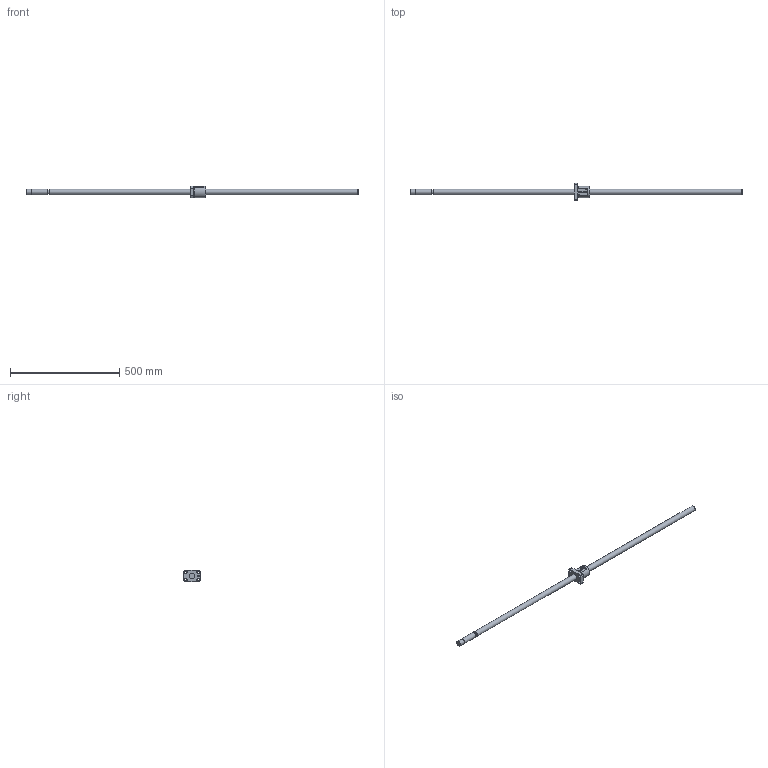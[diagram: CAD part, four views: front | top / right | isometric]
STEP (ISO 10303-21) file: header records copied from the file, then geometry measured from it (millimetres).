
FILE_DESCRIPTION((''),'2;1');
FILE_NAME('D:\製品 (図面)\カタログ用3D\ネジ関連\STEP形式\KBS(C)\KBS(C)2520-1520.stp','2010-06-02T14:21:33',('Tsuchiya'),(''),'Autodesk Inventor 10','Autodesk Inventor 10','');
FILE_SCHEMA(('AUTOMOTIVE_DESIGN { 1 0 10303 214 1 1 1 1 }'));
Length unit declared in the file: millimetre
Products named in the file (3): KBS(C)2520-1520; KBS(C)2520-15201; KBS(C)2520-15202
Assembly tree (2 placements, depth 2):
  KBS(C)2520-1520
    KBS(C)2520-15201
    KBS(C)2520-15202
Bounding box: 1520 x 78 x 52 mm (x, y, z)
Volume: 872913 mm3; surface area: 148695.9 mm2
Topology: 2 solids, 2 shells, 103 faces, 260 edges, 171 vertices
Faces by surface type: plane 42, cylinder 35, bspline 20, cone 4, torus 2
Full cylindrical faces by diameter (mm): 4.8 x1, 6 x1, 7.4 x1, 9 x4, 14 x4, 21 x1, 24.5 x1, 25 x3, 27 x2, 52 x1
Entity records: 3299 total; most frequent: CARTESIAN_POINT 928, DIRECTION 448, ORIENTED_EDGE 448, EDGE_CURVE 224, AXIS2_PLACEMENT_3D 168, VERTEX_POINT 164, EDGE_LOOP 158, VECTOR 112
